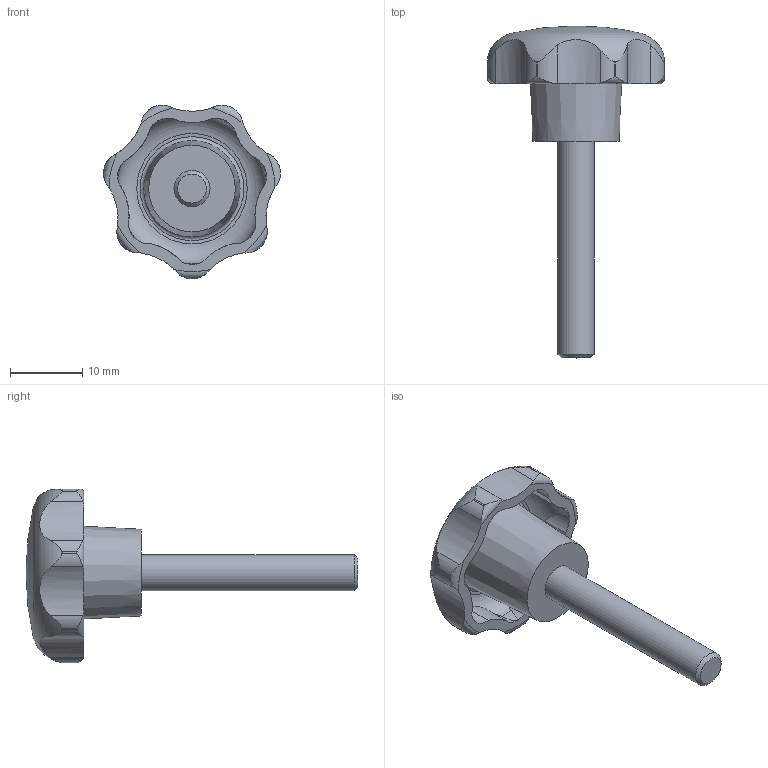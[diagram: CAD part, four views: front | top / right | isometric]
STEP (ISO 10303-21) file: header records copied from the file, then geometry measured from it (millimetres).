
FILE_DESCRIPTION( ( 'STEP AP203' ), '1' );
FILE_NAME( 'C:/Temp/Ganter_Step_05_03_2020/data/2_2/gn_6336_4/gn_6336_4_st/Star knob GN 6336.4-ST-25-M5-30.stp', '2020-03-05T12:07:14', ( 'License CC BY-ND 4.0' ), ( 'CADENAS' ), ' ', 'PARTsolutions', ' ' );
FILE_SCHEMA( ( 'CONFIG_CONTROL_DESIGN' ) );
Length unit declared in the file: millimetre
Products named in the file (1): _Star knob GN 6336.4-ST-25-M5-30
Bounding box: 24.52 x 46 x 24.06 mm (x, y, z)
Volume: 3715.8 mm3; surface area: 2486.5 mm2
Topology: 1 solids, 1 shells, 74 faces, 209 edges, 138 vertices
Faces by surface type: cylinder 50, torus 10, cone 10, plane 3, sphere 1
Full cylindrical faces by diameter (mm): 5 x1
Entity records: 3129 total; most frequent: CARTESIAN_POINT 1317, ORIENTED_EDGE 394, DIRECTION 336, EDGE_CURVE 197, AXIS2_PLACEMENT_3D 147, VERTEX_POINT 135, EDGE_LOOP 83, B_SPLINE_CURVE_WITH_KNOTS 83
